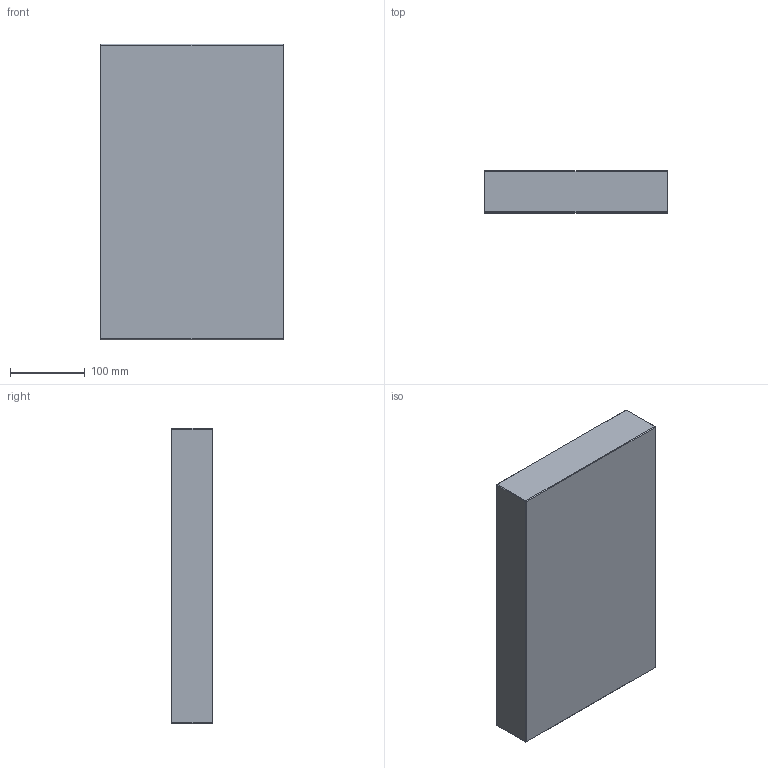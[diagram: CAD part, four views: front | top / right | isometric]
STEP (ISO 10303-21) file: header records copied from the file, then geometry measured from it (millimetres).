
FILE_DESCRIPTION (( 'STEP AP214' ), '1' );
FILE_NAME ('PC-P-246x396x56.STEP', '2020-04-01T08:44:25', ( 'August' ), ( '' ), 'SwSTEP 2.0', 'SolidWorks 2018', '' );
FILE_SCHEMA (( 'AUTOMOTIVE_DESIGN' ));
Length unit declared in the file: millimetre
Products named in the file (1): PC-P-246x396x56
Bounding box: 246 x 56 x 396 mm (x, y, z)
Volume: 5453905.3 mm3; surface area: 265097.5 mm2
Topology: 1 solids, 1 shells, 26 faces, 48 edges, 24 vertices
Faces by surface type: plane 26
Entity records: 634 total; most frequent: DIRECTION 102, CARTESIAN_POINT 99, ORIENTED_EDGE 96, EDGE_CURVE 48, LINE 48, VECTOR 48, AXIS2_PLACEMENT_3D 27, ADVANCED_FACE 26
